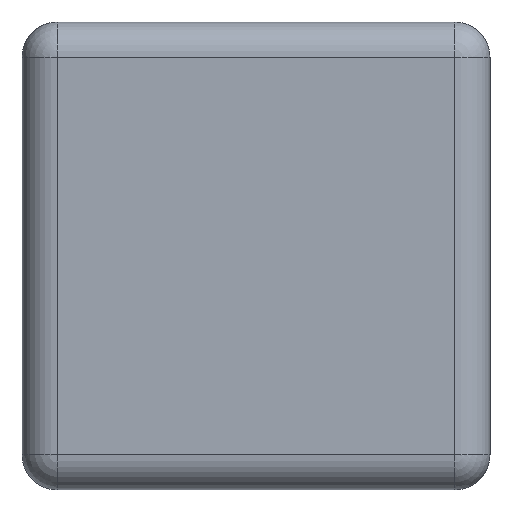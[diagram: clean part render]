
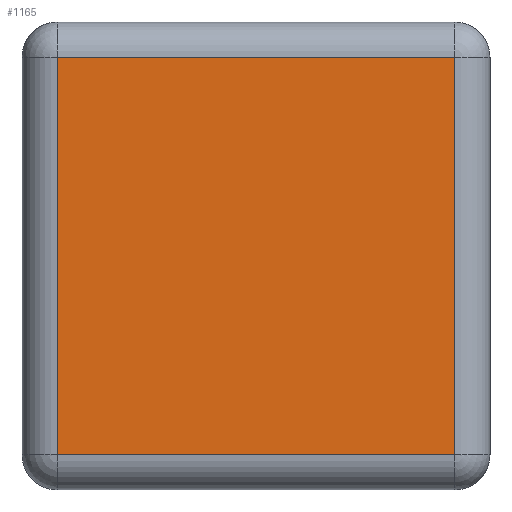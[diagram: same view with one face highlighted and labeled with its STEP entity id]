
A CAD part, left-side view. The second image highlights one B-rep face of the part: STEP entity #1165.
In plain terms, the highlighted planar face has unit normal (-1, 0, 0).
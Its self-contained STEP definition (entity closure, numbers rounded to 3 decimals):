
#186 = CYLINDRICAL_SURFACE('',#187,0.06);
#187 = AXIS2_PLACEMENT_3D('',#188,#189,#190);
#188 = CARTESIAN_POINT('',(-0.74,0.34,0.));
#189 = DIRECTION('',(0.,0.,1.));
#190 = DIRECTION('',(-0.,1.,0.));
#582 = VERTEX_POINT('',#583);
#583 = CARTESIAN_POINT('',(-0.8,0.34,0.06));
#603 = EDGE_CURVE('',#582,#604,#606,.T.);
#604 = VERTEX_POINT('',#605);
#605 = CARTESIAN_POINT('',(-0.8,0.34,0.74));
#606 = SURFACE_CURVE('',#607,(#611,#618),.PCURVE_S1.);
#607 = LINE('',#608,#609);
#608 = CARTESIAN_POINT('',(-0.8,0.34,0.));
#609 = VECTOR('',#610,1.);
#610 = DIRECTION('',(0.,0.,1.));
#611 = PCURVE('',#186,#612);
#612 = DEFINITIONAL_REPRESENTATION('',(#613),#617);
#613 = LINE('',#614,#615);
#614 = CARTESIAN_POINT('',(1.571,0.));
#615 = VECTOR('',#616,1.);
#616 = DIRECTION('',(0.,1.));
#617 = ( GEOMETRIC_REPRESENTATION_CONTEXT(2) 
PARAMETRIC_REPRESENTATION_CONTEXT() REPRESENTATION_CONTEXT('2D SPACE',''
  ) );
#618 = PCURVE('',#619,#624);
#619 = PLANE('',#620);
#620 = AXIS2_PLACEMENT_3D('',#621,#622,#623);
#621 = CARTESIAN_POINT('',(-0.8,-0.4,0.));
#622 = DIRECTION('',(-1.,0.,0.));
#623 = DIRECTION('',(0.,1.,0.));
#624 = DEFINITIONAL_REPRESENTATION('',(#625),#629);
#625 = LINE('',#626,#627);
#626 = CARTESIAN_POINT('',(0.74,0.));
#627 = VECTOR('',#628,1.);
#628 = DIRECTION('',(0.,-1.));
#629 = ( GEOMETRIC_REPRESENTATION_CONTEXT(2) 
PARAMETRIC_REPRESENTATION_CONTEXT() REPRESENTATION_CONTEXT('2D SPACE',''
  ) );
#1016 = CYLINDRICAL_SURFACE('',#1017,0.06);
#1017 = AXIS2_PLACEMENT_3D('',#1018,#1019,#1020);
#1018 = CARTESIAN_POINT('',(-0.74,-0.4,0.06));
#1019 = DIRECTION('',(0.,1.,0.));
#1020 = DIRECTION('',(-1.,0.,0.));
#1100 = CYLINDRICAL_SURFACE('',#1101,0.06);
#1101 = AXIS2_PLACEMENT_3D('',#1102,#1103,#1104);
#1102 = CARTESIAN_POINT('',(-0.74,-0.4,0.74));
#1103 = DIRECTION('',(0.,1.,0.));
#1104 = DIRECTION('',(-1.,0.,0.));
#1165 = ADVANCED_FACE('',(#1166),#619,.T.);
#1166 = FACE_BOUND('',#1167,.T.);
#1167 = EDGE_LOOP('',(#1168,#1198,#1219,#1220));
#1168 = ORIENTED_EDGE('',*,*,#1169,.T.);
#1169 = EDGE_CURVE('',#1170,#1172,#1174,.T.);
#1170 = VERTEX_POINT('',#1171);
#1171 = CARTESIAN_POINT('',(-0.8,-0.34,0.06));
#1172 = VERTEX_POINT('',#1173);
#1173 = CARTESIAN_POINT('',(-0.8,-0.34,0.74));
#1174 = SURFACE_CURVE('',#1175,(#1179,#1186),.PCURVE_S1.);
#1175 = LINE('',#1176,#1177);
#1176 = CARTESIAN_POINT('',(-0.8,-0.34,0.));
#1177 = VECTOR('',#1178,1.);
#1178 = DIRECTION('',(0.,0.,1.));
#1179 = PCURVE('',#619,#1180);
#1180 = DEFINITIONAL_REPRESENTATION('',(#1181),#1185);
#1181 = LINE('',#1182,#1183);
#1182 = CARTESIAN_POINT('',(0.06,0.));
#1183 = VECTOR('',#1184,1.);
#1184 = DIRECTION('',(0.,-1.));
#1185 = ( GEOMETRIC_REPRESENTATION_CONTEXT(2) 
PARAMETRIC_REPRESENTATION_CONTEXT() REPRESENTATION_CONTEXT('2D SPACE',''
  ) );
#1186 = PCURVE('',#1187,#1192);
#1187 = CYLINDRICAL_SURFACE('',#1188,0.06);
#1188 = AXIS2_PLACEMENT_3D('',#1189,#1190,#1191);
#1189 = CARTESIAN_POINT('',(-0.74,-0.34,0.));
#1190 = DIRECTION('',(0.,0.,1.));
#1191 = DIRECTION('',(-1.,0.,0.));
#1192 = DEFINITIONAL_REPRESENTATION('',(#1193),#1197);
#1193 = LINE('',#1194,#1195);
#1194 = CARTESIAN_POINT('',(0.,0.));
#1195 = VECTOR('',#1196,1.);
#1196 = DIRECTION('',(0.,1.));
#1197 = ( GEOMETRIC_REPRESENTATION_CONTEXT(2) 
PARAMETRIC_REPRESENTATION_CONTEXT() REPRESENTATION_CONTEXT('2D SPACE',''
  ) );
#1198 = ORIENTED_EDGE('',*,*,#1199,.T.);
#1199 = EDGE_CURVE('',#1172,#604,#1200,.T.);
#1200 = SURFACE_CURVE('',#1201,(#1205,#1212),.PCURVE_S1.);
#1201 = LINE('',#1202,#1203);
#1202 = CARTESIAN_POINT('',(-0.8,-0.4,0.74));
#1203 = VECTOR('',#1204,1.);
#1204 = DIRECTION('',(0.,1.,0.));
#1205 = PCURVE('',#619,#1206);
#1206 = DEFINITIONAL_REPRESENTATION('',(#1207),#1211);
#1207 = LINE('',#1208,#1209);
#1208 = CARTESIAN_POINT('',(0.,-0.74));
#1209 = VECTOR('',#1210,1.);
#1210 = DIRECTION('',(1.,0.));
#1211 = ( GEOMETRIC_REPRESENTATION_CONTEXT(2) 
PARAMETRIC_REPRESENTATION_CONTEXT() REPRESENTATION_CONTEXT('2D SPACE',''
  ) );
#1212 = PCURVE('',#1100,#1213);
#1213 = DEFINITIONAL_REPRESENTATION('',(#1214),#1218);
#1214 = LINE('',#1215,#1216);
#1215 = CARTESIAN_POINT('',(0.,0.));
#1216 = VECTOR('',#1217,1.);
#1217 = DIRECTION('',(0.,1.));
#1218 = ( GEOMETRIC_REPRESENTATION_CONTEXT(2) 
PARAMETRIC_REPRESENTATION_CONTEXT() REPRESENTATION_CONTEXT('2D SPACE',''
  ) );
#1219 = ORIENTED_EDGE('',*,*,#603,.F.);
#1220 = ORIENTED_EDGE('',*,*,#1221,.F.);
#1221 = EDGE_CURVE('',#1170,#582,#1222,.T.);
#1222 = SURFACE_CURVE('',#1223,(#1227,#1234),.PCURVE_S1.);
#1223 = LINE('',#1224,#1225);
#1224 = CARTESIAN_POINT('',(-0.8,-0.4,0.06));
#1225 = VECTOR('',#1226,1.);
#1226 = DIRECTION('',(0.,1.,0.));
#1227 = PCURVE('',#619,#1228);
#1228 = DEFINITIONAL_REPRESENTATION('',(#1229),#1233);
#1229 = LINE('',#1230,#1231);
#1230 = CARTESIAN_POINT('',(0.,-0.06));
#1231 = VECTOR('',#1232,1.);
#1232 = DIRECTION('',(1.,0.));
#1233 = ( GEOMETRIC_REPRESENTATION_CONTEXT(2) 
PARAMETRIC_REPRESENTATION_CONTEXT() REPRESENTATION_CONTEXT('2D SPACE',''
  ) );
#1234 = PCURVE('',#1016,#1235);
#1235 = DEFINITIONAL_REPRESENTATION('',(#1236),#1240);
#1236 = LINE('',#1237,#1238);
#1237 = CARTESIAN_POINT('',(-0.,0.));
#1238 = VECTOR('',#1239,1.);
#1239 = DIRECTION('',(-0.,1.));
#1240 = ( GEOMETRIC_REPRESENTATION_CONTEXT(2) 
PARAMETRIC_REPRESENTATION_CONTEXT() REPRESENTATION_CONTEXT('2D SPACE',''
  ) );
